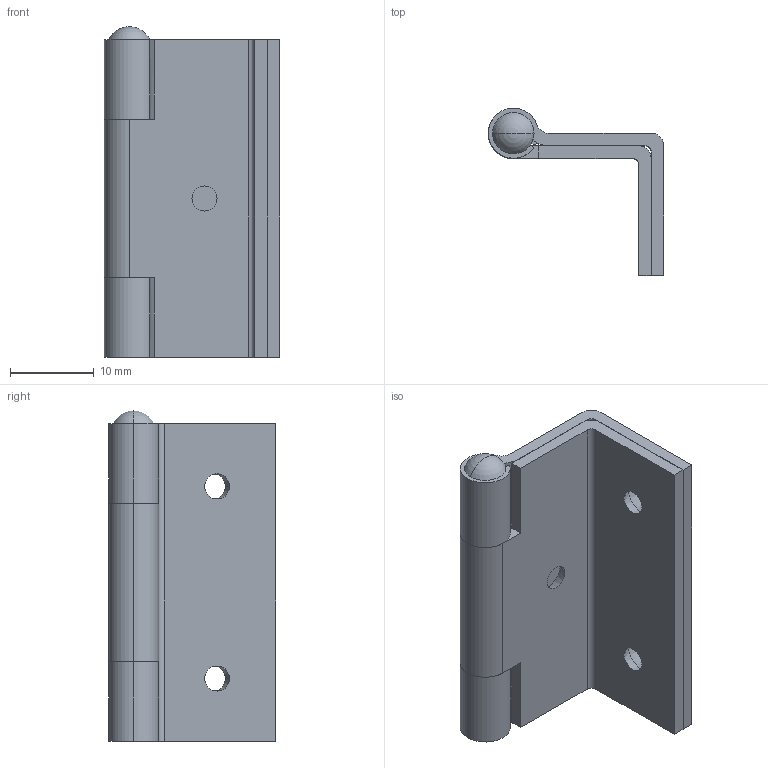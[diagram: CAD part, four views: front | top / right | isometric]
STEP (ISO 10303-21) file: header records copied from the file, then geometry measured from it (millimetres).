
FILE_DESCRIPTION((''),'2;1');
FILE_NAME('6031.01.stp','2015-07-17T14:33:32',(''),(''),'Mechanical Desktop 2006','Mechanical Desktop 2006',', , ');
FILE_SCHEMA(('CONFIG_CONTROL_DESIGN'));
Length unit declared in the file: millimetre
Products named in the file (1): 6031.01
Bounding box: 21 x 20 x 39.55 mm (x, y, z)
Volume: 4266.6 mm3; surface area: 6003.8 mm2
Topology: 2 solids, 2 shells, 60 faces, 169 edges, 112 vertices
Faces by surface type: plane 26, cylinder 20, cone 12, sphere 2
Entity records: 2067 total; most frequent: DIRECTION 364, CARTESIAN_POINT 338, ORIENTED_EDGE 332, EDGE_CURVE 166, AXIS2_PLACEMENT_3D 137, VERTEX_POINT 111, VECTOR 90, LINE 90
